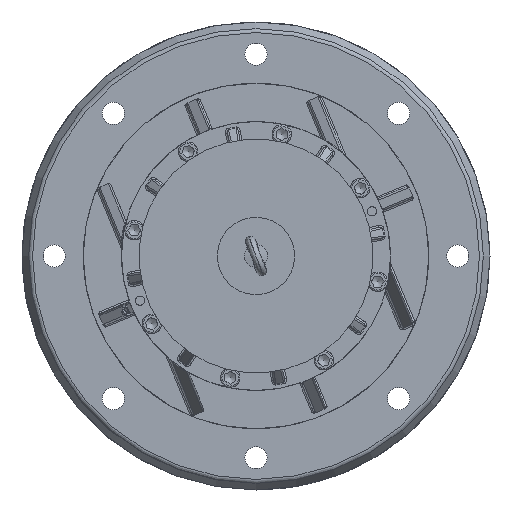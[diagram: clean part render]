
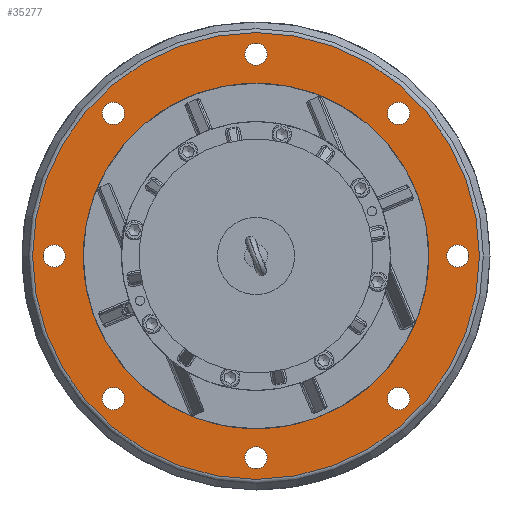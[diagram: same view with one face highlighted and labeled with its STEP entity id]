
A CAD part, left-side view. The second image highlights one B-rep face of the part: STEP entity #35277.
In plain terms, the highlighted planar face has unit normal (-1, 0, 0).
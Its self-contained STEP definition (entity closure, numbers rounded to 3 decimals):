
#272=FACE_BOUND('',#11444,.T.);
#273=FACE_BOUND('',#11445,.T.);
#274=FACE_BOUND('',#11446,.T.);
#275=FACE_BOUND('',#11447,.T.);
#276=FACE_BOUND('',#11448,.T.);
#277=FACE_BOUND('',#11449,.T.);
#278=FACE_BOUND('',#11450,.T.);
#279=FACE_BOUND('',#11451,.T.);
#280=FACE_BOUND('',#11452,.T.);
#1708=PLANE('',#38116);
#2554=CIRCLE('',#37493,12.);
#2558=CIRCLE('',#37500,12.);
#2562=CIRCLE('',#37507,12.);
#2566=CIRCLE('',#37514,12.);
#2570=CIRCLE('',#37521,12.);
#2574=CIRCLE('',#37528,12.);
#2578=CIRCLE('',#37535,12.);
#2582=CIRCLE('',#37542,12.);
#2816=CIRCLE('',#38117,242.453);
#2817=CIRCLE('',#38118,187.5);
#9290=FACE_OUTER_BOUND('',#11443,.T.);
#11443=EDGE_LOOP('',(#27386));
#11444=EDGE_LOOP('',(#27387));
#11445=EDGE_LOOP('',(#27388));
#11446=EDGE_LOOP('',(#27389));
#11447=EDGE_LOOP('',(#27390));
#11448=EDGE_LOOP('',(#27391));
#11449=EDGE_LOOP('',(#27392));
#11450=EDGE_LOOP('',(#27393));
#11451=EDGE_LOOP('',(#27394));
#11452=EDGE_LOOP('',(#27395));
#14961=VERTEX_POINT('',#55881);
#14965=VERTEX_POINT('',#55894);
#14969=VERTEX_POINT('',#55907);
#14973=VERTEX_POINT('',#55920);
#14977=VERTEX_POINT('',#55933);
#14981=VERTEX_POINT('',#55946);
#14985=VERTEX_POINT('',#55959);
#14989=VERTEX_POINT('',#55972);
#15544=VERTEX_POINT('',#63032);
#15545=VERTEX_POINT('',#63034);
#18760=EDGE_CURVE('',#14961,#14961,#2554,.T.);
#18766=EDGE_CURVE('',#14965,#14965,#2558,.T.);
#18772=EDGE_CURVE('',#14969,#14969,#2562,.T.);
#18778=EDGE_CURVE('',#14973,#14973,#2566,.T.);
#18784=EDGE_CURVE('',#14977,#14977,#2570,.T.);
#18790=EDGE_CURVE('',#14981,#14981,#2574,.T.);
#18796=EDGE_CURVE('',#14985,#14985,#2578,.T.);
#18802=EDGE_CURVE('',#14989,#14989,#2582,.T.);
#19723=EDGE_CURVE('',#15544,#15544,#2816,.T.);
#19724=EDGE_CURVE('',#15545,#15545,#2817,.T.);
#27386=ORIENTED_EDGE('',*,*,#19723,.T.);
#27387=ORIENTED_EDGE('',*,*,#19724,.F.);
#27388=ORIENTED_EDGE('',*,*,#18802,.F.);
#27389=ORIENTED_EDGE('',*,*,#18796,.F.);
#27390=ORIENTED_EDGE('',*,*,#18790,.F.);
#27391=ORIENTED_EDGE('',*,*,#18784,.F.);
#27392=ORIENTED_EDGE('',*,*,#18778,.F.);
#27393=ORIENTED_EDGE('',*,*,#18772,.F.);
#27394=ORIENTED_EDGE('',*,*,#18766,.F.);
#27395=ORIENTED_EDGE('',*,*,#18760,.F.);
#35277=ADVANCED_FACE('',(#9290,#272,#273,#274,#275,#276,#277,#278,#279,
#280),#1708,.F.);
#37493=AXIS2_PLACEMENT_3D('',#55883,#43131,#43132);
#37500=AXIS2_PLACEMENT_3D('',#55896,#43147,#43148);
#37507=AXIS2_PLACEMENT_3D('',#55909,#43163,#43164);
#37514=AXIS2_PLACEMENT_3D('',#55922,#43179,#43180);
#37521=AXIS2_PLACEMENT_3D('',#55935,#43195,#43196);
#37528=AXIS2_PLACEMENT_3D('',#55948,#43211,#43212);
#37535=AXIS2_PLACEMENT_3D('',#55961,#43227,#43228);
#37542=AXIS2_PLACEMENT_3D('',#55974,#43243,#43244);
#38116=AXIS2_PLACEMENT_3D('',#63031,#44687,#44688);
#38117=AXIS2_PLACEMENT_3D('',#63033,#44689,#44690);
#38118=AXIS2_PLACEMENT_3D('',#63035,#44691,#44692);
#43131=DIRECTION('center_axis',(-1.,0.,0.));
#43132=DIRECTION('ref_axis',(0.,0.,-1.));
#43147=DIRECTION('center_axis',(-1.,0.,0.));
#43148=DIRECTION('ref_axis',(0.,-0.707,0.707));
#43163=DIRECTION('center_axis',(-1.,0.,0.));
#43164=DIRECTION('ref_axis',(0.,-1.,0.));
#43179=DIRECTION('center_axis',(-1.,0.,0.));
#43180=DIRECTION('ref_axis',(0.,-0.707,-0.707));
#43195=DIRECTION('center_axis',(-1.,0.,0.));
#43196=DIRECTION('ref_axis',(0.,0.707,-0.707));
#43211=DIRECTION('center_axis',(-1.,0.,0.));
#43212=DIRECTION('ref_axis',(0.,1.,0.));
#43227=DIRECTION('center_axis',(-1.,0.,0.));
#43228=DIRECTION('ref_axis',(0.,0.707,0.707));
#43243=DIRECTION('center_axis',(-1.,0.,0.));
#43244=DIRECTION('ref_axis',(0.,0.,1.));
#44687=DIRECTION('center_axis',(1.,0.,0.));
#44688=DIRECTION('ref_axis',(0.,0.,-1.));
#44689=DIRECTION('center_axis',(-1.,0.,0.));
#44690=DIRECTION('ref_axis',(0.,0.,-1.));
#44691=DIRECTION('center_axis',(-1.,0.,0.));
#44692=DIRECTION('ref_axis',(0.,0.,-1.));
#55881=CARTESIAN_POINT('',(-27.5,219.,12.));
#55883=CARTESIAN_POINT('Origin',(-27.5,219.,0.));
#55894=CARTESIAN_POINT('',(-27.5,-146.371,-163.342));
#55896=CARTESIAN_POINT('Origin',(-27.5,-154.856,-154.856));
#55907=CARTESIAN_POINT('',(-27.5,12.,-219.));
#55909=CARTESIAN_POINT('Origin',(-27.5,0.,-219.));
#55920=CARTESIAN_POINT('',(-27.5,163.342,-146.371));
#55922=CARTESIAN_POINT('Origin',(-27.5,154.856,-154.856));
#55933=CARTESIAN_POINT('',(-27.5,146.371,163.342));
#55935=CARTESIAN_POINT('Origin',(-27.5,154.856,154.856));
#55946=CARTESIAN_POINT('',(-27.5,-12.,219.));
#55948=CARTESIAN_POINT('Origin',(-27.5,0.,
219.));
#55959=CARTESIAN_POINT('',(-27.5,-163.342,146.371));
#55961=CARTESIAN_POINT('Origin',(-27.5,-154.856,154.856));
#55972=CARTESIAN_POINT('',(-27.5,-219.,-12.));
#55974=CARTESIAN_POINT('Origin',(-27.5,-219.,0.));
#63031=CARTESIAN_POINT('Origin',(-27.5,0.,0.));
#63032=CARTESIAN_POINT('',(-27.5,0.,242.453));
#63033=CARTESIAN_POINT('Origin',(-27.5,0.,0.));
#63034=CARTESIAN_POINT('',(-27.5,0.,187.5));
#63035=CARTESIAN_POINT('Origin',(-27.5,0.,0.));
